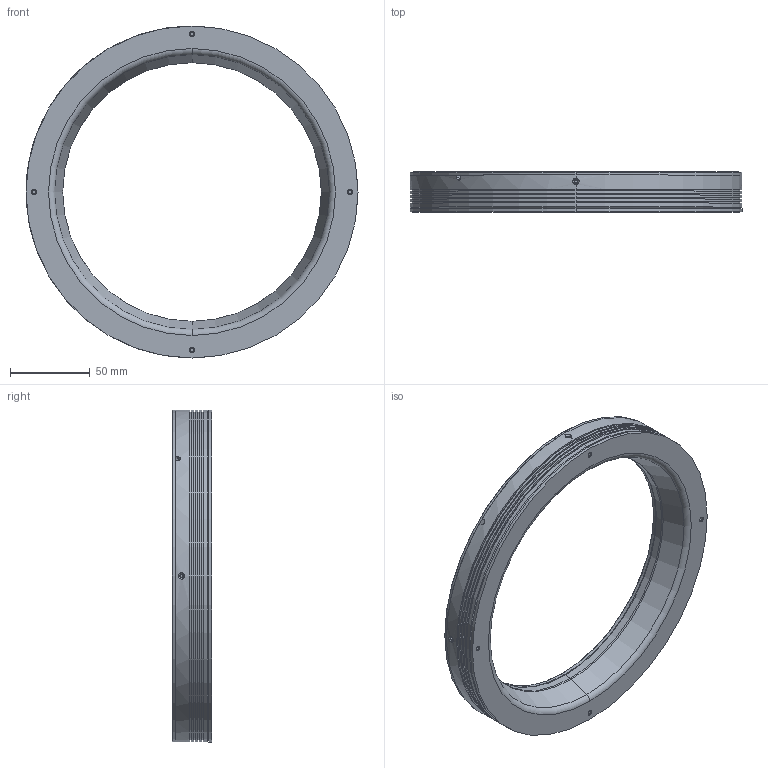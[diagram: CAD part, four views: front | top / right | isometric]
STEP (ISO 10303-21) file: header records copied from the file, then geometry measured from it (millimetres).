
FILE_DESCRIPTION (( 'STEP AP203' ), '1' );
FILE_NAME ('CST-RS20820-¼òÒ×3DÍ¼.STEP', '2021-03-25T08:19:20', ( '' ), ( '' ), 'SwSTEP 2.0', 'SolidWorks 2018', '' );
FILE_SCHEMA (( 'CONFIG_CONTROL_DESIGN' ));
Length unit declared in the file: millimetre
Products named in the file (1): CST-RS20820-潠眢3D芞
Bounding box: 208 x 25 x 208 mm (x, y, z)
Surface area: 81336.7 mm2 (no closed solid volume)
Topology: 0 solids, 3 shells, 99 faces, 257 edges, 168 vertices
Faces by surface type: cylinder 56, cone 24, plane 15, torus 4
Entity records: 3669 total; most frequent: CARTESIAN_POINT 1103, DIRECTION 557, ORIENTED_EDGE 465, EDGE_CURVE 257, AXIS2_PLACEMENT_3D 234, VERTEX_POINT 168, CIRCLE 134, EDGE_LOOP 129
